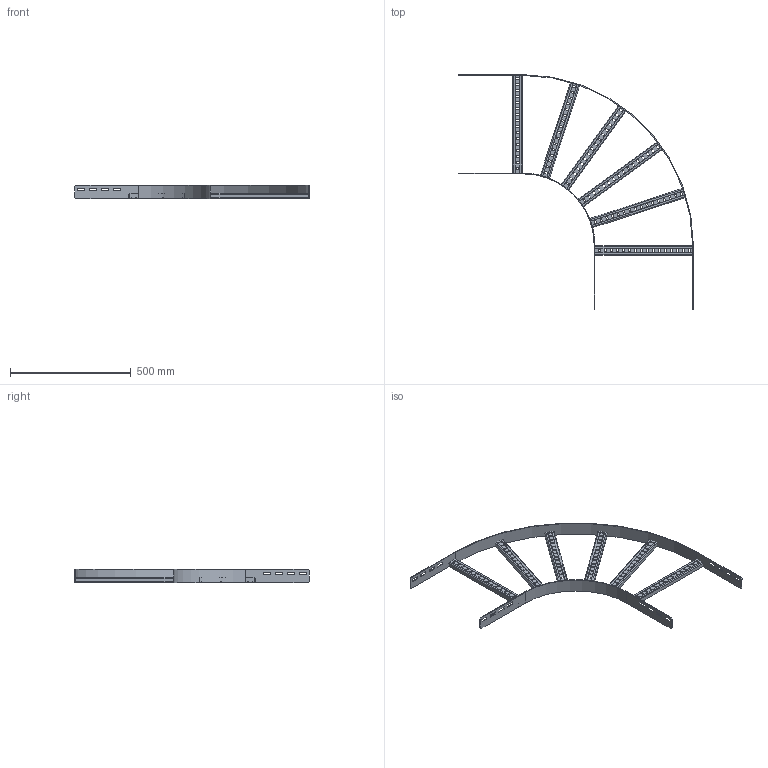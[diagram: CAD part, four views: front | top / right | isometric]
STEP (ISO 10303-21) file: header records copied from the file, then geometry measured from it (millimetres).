
FILE_DESCRIPTION(('Creo Elements/Direct Modeling STEP Export'),'2;1');
FILE_NAME('//pserver/office/EK/ME10-3D/3D-output/WPHB06-40-90-30-HDG.stp','2019-08-14T 9:45:10',(''),(''),'PTC Creo Elements/Direct Modeling STEP processor for AP214 (Solid Model)','PTC Creo Elements/Direct Modeling 19.0C 15-Aug-2015 (C) Parametric Technology GmbH','');
FILE_SCHEMA(('AUTOMOTIVE_DESIGN { 1 0 10303 214 1 1 1 1 }'));
Length unit declared in the file: millimetre
Products named in the file (4): WPHBA_60-40-90-300; WPHBS40.1.1; WPHBI_06-300; WPHB06-40-90-30-HDG
Assembly tree (8 placements, depth 2):
  WPHB06-40-90-30-HDG
    WPHBS40.1.1  x6
    WPHBI_06-300
    WPHBA_60-40-90-300
Bounding box: 973 x 973 x 55 mm (x, y, z)
Volume: 773191.4 mm3; surface area: 787294.4 mm2
Topology: 8 solids, 8 shells, 716 faces, 2100 edges, 1400 vertices
Faces by surface type: plane 412, cylinder 304
Entity records: 6710 total; most frequent: CARTESIAN_POINT 1154, ORIENTED_EDGE 1140, DIRECTION 1086, EDGE_CURVE 570, VECTOR 462, LINE 462, VERTEX_POINT 380, AXIS2_PLACEMENT_3D 312
